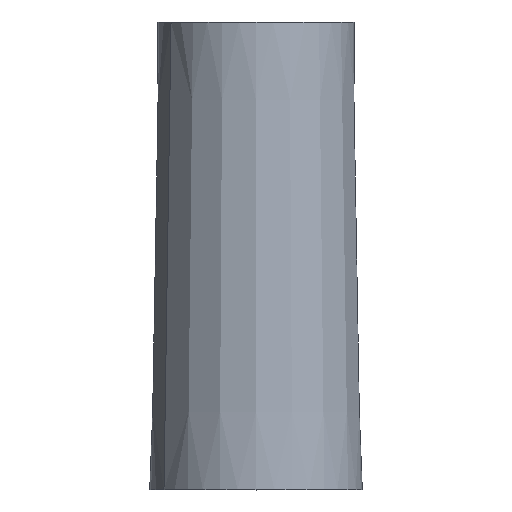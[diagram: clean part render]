
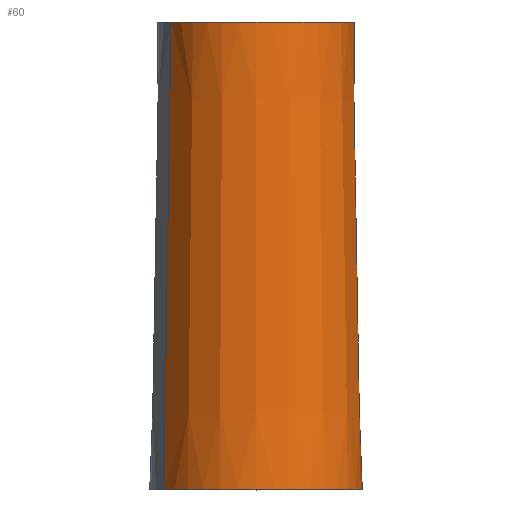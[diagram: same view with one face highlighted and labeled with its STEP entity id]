
A CAD part, top view. The second image highlights one B-rep face of the part: STEP entity #60.
In plain terms, the highlighted conical face has half-angle 1 degrees and reference radius 7.5 mm.
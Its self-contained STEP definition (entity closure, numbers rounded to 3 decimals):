
#12 = FACE_OUTER_BOUND ( 'NONE', #28, .T. ) ;
#15 = CONICAL_SURFACE ( 'NONE', #108, 7.5, 0.017 ) ;
#18 = DIRECTION ( 'NONE',  ( -0.866, 0., 0.5 ) ) ;
#28 = EDGE_LOOP ( 'NONE', ( #43, #45, #49, #47 ) ) ;
#43 = ORIENTED_EDGE ( 'NONE', *, *, #123, .F. ) ;
#45 = ORIENTED_EDGE ( 'NONE', *, *, #158, .T. ) ;
#47 = ORIENTED_EDGE ( 'NONE', *, *, #118, .F. ) ;
#49 = ORIENTED_EDGE ( 'NONE', *, *, #149, .T. ) ;
#60 = ADVANCED_FACE ( 'NONE', ( #12 ), #15, .T. ) ;
#78 = CARTESIAN_POINT ( 'NONE',  ( 6.495, 0., -3.75 ) ) ;
#79 = DIRECTION ( 'NONE',  ( -0.866, 0., 0.5 ) ) ;
#80 = DIRECTION ( 'NONE',  ( 0.015, -1., -0.009 ) ) ;
#83 = DIRECTION ( 'NONE',  ( 0., -1., 0. ) ) ;
#84 = CARTESIAN_POINT ( 'NONE',  ( 0., 0., 0. ) ) ;
#108 = AXIS2_PLACEMENT_3D ( 'NONE', #268, #383, #414 ) ;
#118 = EDGE_CURVE ( 'NONE', #420, #374, #203, .T. ) ;
#123 = EDGE_CURVE ( 'NONE', #405, #420, #198, .T. ) ;
#139 = AXIS2_PLACEMENT_3D ( 'NONE', #211, #220, #18 ) ;
#148 = AXIS2_PLACEMENT_3D ( 'NONE', #84, #83, #79 ) ;
#149 = EDGE_CURVE ( 'NONE', #422, #374, #187, .T. ) ;
#158 = EDGE_CURVE ( 'NONE', #405, #422, #221, .T. ) ;
#176 = VECTOR ( 'NONE', #276, 1000. ) ;
#187 = LINE ( 'NONE', #277, #176 ) ;
#197 = VECTOR ( 'NONE', #80, 1000. ) ;
#198 = LINE ( 'NONE', #78, #197 ) ;
#203 = CIRCLE ( 'NONE', #148, 7.5 ) ;
#211 = CARTESIAN_POINT ( 'NONE',  ( 0., 33., 0. ) ) ;
#220 = DIRECTION ( 'NONE',  ( 0., -1., 0. ) ) ;
#221 = CIRCLE ( 'NONE', #139, 6.924 ) ;
#267 = CARTESIAN_POINT ( 'NONE',  ( -6.495, 0., 3.75 ) ) ;
#268 = CARTESIAN_POINT ( 'NONE',  ( 0., 0., 0. ) ) ;
#276 = DIRECTION ( 'NONE',  ( -0.015, -1., 0.009 ) ) ;
#277 = CARTESIAN_POINT ( 'NONE',  ( -6.495, 0., 3.75 ) ) ;
#292 = CARTESIAN_POINT ( 'NONE',  ( 6.495, 0., -3.75 ) ) ;
#304 = CARTESIAN_POINT ( 'NONE',  ( -5.996, 33., 3.462 ) ) ;
#312 = CARTESIAN_POINT ( 'NONE',  ( 5.996, 33., -3.462 ) ) ;
#374 = VERTEX_POINT ( 'NONE', #267 ) ;
#383 = DIRECTION ( 'NONE',  ( 0., -1., 0. ) ) ;
#405 = VERTEX_POINT ( 'NONE', #312 ) ;
#414 = DIRECTION ( 'NONE',  ( -0.866, 0., 0.5 ) ) ;
#420 = VERTEX_POINT ( 'NONE', #292 ) ;
#422 = VERTEX_POINT ( 'NONE', #304 ) ;
